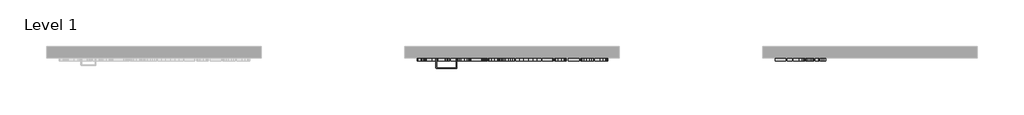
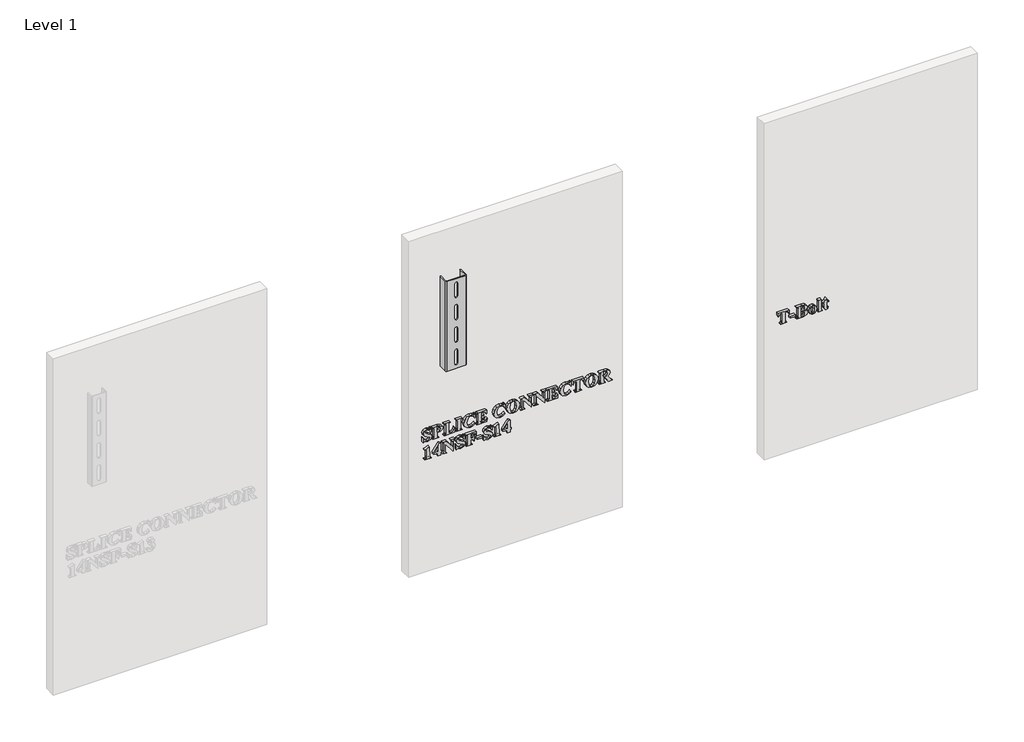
# One storey, part 21 of 21: 4 proxies.
"""IFC4 building model written with IfcOpenShell, lengths in millimetres."""

from ifc_helpers import new_model, si_unit, frame, origin, place, context, project, spatial, polyline, outline, extrude, transform, mapped, element, save
from components import generic_models_3a623070

model = new_model("IFC4")

# Units and contexts
model_context = context("Model", 3, world=origin())
ifc_project = project(units=[si_unit("LENGTHUNIT", "METRE", prefix="MILLI")], contexts=[model_context])

# Site, building, storey
site = spatial("IfcSite", under=ifc_project)
building = spatial("IfcBuilding", under=site)
storey = spatial("IfcBuildingStorey", under=building, Name="Level 1", Elevation=0.0)

# Proxies
placement = place(None, origin())
element("IfcBuildingElementProxy", 1, Name="2\"\" Arial", ObjectType="2\"\" Arial", at=placement, inside=storey, context=model_context, shape_type="SweptSolid", body=[
    extrude(outline(polyline([(653.4647125, 37514.5174669), (653.4647125, 37512.7446218), (650.5284378, 37511.6365936), (649.9190223, 37510.002252), (651.1586288, 37506.2418813), (652.855297, 37501.6920405), (653.4647125, 37496.6089612), (649.1364773, 37484.6768826), (638.6448354, 37479.9469872), (632.0382173, 37481.5813288), (626.6019539, 37486.2627479), (620.6947786, 37497.1075739), (616.6504757, 37504.8637712), (613.3817925, 37508.1255292), (609.8222519, 37509.1989316), (604.3859886, 37506.5327387), (602.0522042, 37499.3651813), (606.366589, 37488.5134302), (618.8942328, 37481.7198323), (618.8942328, 37479.9469872), (599.3929366, 37479.9469872), (599.3929366, 37481.7198323), (602.0660546, 37483.5411537), (602.9386268, 37485.6810331), (602.0799049, 37488.741961), (599.9538758, 37494.2890271), (599.3929366, 37498.9773714), (604.0743557, 37512.0382538), (615.2654405, 37517.1767346), (624.365122, 37514.5590179), (632.813837, 37501.8720951), (637.3013512, 37492.7308625), (640.8608918, 37488.8112128), (643.9218197, 37487.9247902), (648.7209668, 37490.3486019), (650.8054448, 37496.9275193), (646.6711146, 37506.9413241), (635.7362614, 37512.7446218), (635.7362614, 37514.5174669), (653.4647125, 37514.5174669)])), frame((0.0, -15490.3579358, 0.0), z_axis=(0.0, 1.0, 0.0), x_axis=(0.0, 0.0, 1.0)), (0.0, 0.0, 1.0), 12.7),
    extrude(outline(polyline([(624.2127681, 37540.223721), (625.1268914, 37553.4785083), (630.022991, 37562.6128157), (638.6586857, 37565.9299752), (648.6032388, 37560.8815217), (652.5782899, 37544.2264729), (652.5782899, 37520.7224248), (650.8054448, 37520.7224248), (650.2029545, 37525.5077216), (648.5963136, 37527.3013422), (643.7140644, 37527.8138052), (609.1435847, 37527.8138052), (604.2751858, 37527.3013422), (602.6685449, 37525.5284971), (602.0522042, 37520.7224248), (600.2793591, 37520.7224248), (600.2793591, 37547.3151015), (602.0522042, 37547.3151015), (602.6546946, 37542.5436551), (604.2613354, 37540.7361841), (609.1435847, 37540.223721), (624.2127681, 37540.223721)]), holes=[polyline([(649.9190223, 37540.223721), (649.9190223, 37542.0104165), (647.1628021, 37550.6322609), (638.4786311, 37553.5200594), (629.6421063, 37550.6322609), (626.7889337, 37542.4120767), (626.8720358, 37540.223721), (649.9190223, 37540.223721)])]), frame((0.0, -15490.3579358, 0.0), z_axis=(0.0, 1.0, 0.0), x_axis=(0.0, 0.0, 1.0)), (0.0, 0.0, 1.0), 12.7),
    extrude(outline(polyline([(619.7806553, 37617.3424834), (619.7806553, 37615.5696383), (610.1269597, 37611.7746417), (605.3416629, 37607.0239709), (603.8250493, 37600.154196), (603.8250493, 37595.8467364), (604.1713081, 37591.2345691), (605.7848742, 37589.4340233), (610.8333277, 37588.9769616), (643.7140644, 37588.9769616), (648.298531, 37589.3509211), (650.0436754, 37590.7636571), (650.8054448, 37594.0323403), (650.8054448, 37596.0683421), (652.5782899, 37596.0683421), (652.5782899, 37569.4756654), (650.8054448, 37569.4756654), (650.8054448, 37571.151558), (650.0990768, 37574.5033433), (648.4439597, 37576.1584604), (643.7140644, 37576.5670458), (609.1435847, 37576.5670458), (604.559118, 37576.1653856), (602.8139736, 37574.6695475), (602.0522042, 37571.151558), (602.0522042, 37569.4756654), (600.2793591, 37569.4756654), (600.2793591, 37615.5696383), (619.7806553, 37617.3424834)])), frame((0.0, -15490.3579358, 0.0), z_axis=(0.0, 1.0, 0.0), x_axis=(0.0, 0.0, 1.0)), (0.0, 0.0, 1.0), 12.7),
    extrude(outline(polyline([(602.0522042, 37648.3672729), (602.0522042, 37646.7052306), (602.7585722, 37643.3603705), (604.4136893, 37641.6983282), (609.1435847, 37641.2758924), (643.7140644, 37641.2758924), (648.298531, 37641.6775527), (650.0436754, 37643.2010914), (650.8054448, 37646.7052306), (650.8054448, 37648.3672729), (652.5782899, 37648.3672729), (652.5782899, 37621.7745962), (650.8054448, 37621.7745962), (650.8054448, 37623.4504889), (650.0990768, 37626.8022741), (648.4439597, 37628.4573913), (643.7140644, 37628.8659767), (609.1435847, 37628.8659767), (604.559118, 37628.4643164), (602.8139736, 37626.9684784), (602.0522042, 37623.4504889), (602.0522042, 37621.7745962), (600.2793591, 37621.7745962), (600.2793591, 37648.3672729), (602.0522042, 37648.3672729)])), frame((0.0, -15490.3579358, 0.0), z_axis=(0.0, 1.0, 0.0), x_axis=(0.0, 0.0, 1.0)), (0.0, 0.0, 1.0), 12.7),
    extrude(outline(polyline([(653.4647125, 37702.4390488), (653.4647125, 37700.6662037), (650.7708189, 37699.5166245), (649.9190223, 37697.4252212), (651.2209554, 37693.0208092), (653.4647125, 37681.6358195), (649.8012943, 37667.8339433), (639.5035572, 37657.5085055), (625.4731502, 37653.6858082), (612.2460636, 37657.1553215), (602.710096, 37667.0098473), (599.3929366, 37681.6219691), (601.4220132, 37692.5498972), (607.9663047, 37701.5526263), (612.4676693, 37701.5526263), (605.0785062, 37693.1800882), (602.9386268, 37684.4335907), (605.854126, 37674.9599496), (614.4551948, 37669.5860128), (627.0797911, 37667.8685691), (639.8636664, 37670.1954283), (647.1420266, 37675.9294743), (649.9190223, 37684.5443935), (646.2625292, 37694.6066745), (635.7362614, 37700.6662037), (635.7362614, 37702.4390488), (653.4647125, 37702.4390488)])), frame((0.0, -15490.3579358, 0.0), z_axis=(0.0, 1.0, 0.0), x_axis=(0.0, 0.0, 1.0)), (0.0, 0.0, 1.0), 12.7),
    extrude(outline(polyline([(649.0325997, 37729.0317255), (649.0325997, 37733.4638383), (648.3400821, 37741.4970427), (644.7320653, 37747.1895376), (636.6226839, 37750.3058669), (636.6226839, 37752.078712), (652.5782899, 37752.078712), (652.5782899, 37709.5304293), (650.8054448, 37709.5304293), (650.8054448, 37711.2063219), (649.7805187, 37715.0567199), (647.827619, 37716.4417552), (643.7140644, 37716.6218097), (609.1435847, 37716.6218097), (604.559118, 37716.2201495), (602.8139736, 37714.7243115), (602.0522042, 37711.2063219), (602.0522042, 37709.5304293), (600.2793591, 37709.5304293), (600.2793591, 37753.3390941), (616.8859317, 37754.280918), (606.4427659, 37748.1659874), (602.9386268, 37736.8433243), (602.9386268, 37733.8239475), (603.5549675, 37730.7076182), (605.1339076, 37729.3849095), (610.4039667, 37729.0317255), (625.0991907, 37729.0317255), (624.0950401, 37734.0386279), (620.1753904, 37737.0718551), (612.6892749, 37738.7823736), (612.6892749, 37740.5552188), (640.1683741, 37740.5552188), (640.1683741, 37738.7823736), (630.9024884, 37736.2754599), (627.7584584, 37729.0317255), (649.0325997, 37729.0317255)])), frame((0.0, -15490.3579358, 0.0), z_axis=(0.0, 1.0, 0.0), x_axis=(0.0, 0.0, 1.0)), (0.0, 0.0, 1.0), 12.7),
    extrude(outline(polyline([(653.4647125, 37830.9703195), (653.4647125, 37829.1974744), (650.7708189, 37828.0478951), (649.9190223, 37825.9564919), (651.2209554, 37821.5520798), (653.4647125, 37810.1670901), (649.8012943, 37796.3652139), (639.5035572, 37786.0397762), (625.4731502, 37782.2170789), (612.2460636, 37785.6865922), (602.710096, 37795.541118), (599.3929366, 37810.1532398), (601.4220132, 37821.0811679), (607.9663047, 37830.0838969), (612.4676693, 37830.0838969), (605.0785062, 37821.7113589), (602.9386268, 37812.9648613), (605.854126, 37803.4912203), (614.4551948, 37798.1172835), (627.0797911, 37796.3998398), (639.8636664, 37798.726699), (647.1420266, 37804.4607449), (649.9190223, 37813.0756641), (646.2625292, 37823.1379452), (635.7362614, 37829.1974744), (635.7362614, 37830.9703195), (653.4647125, 37830.9703195)])), frame((0.0, -15490.3579358, 0.0), z_axis=(0.0, 1.0, 0.0), x_axis=(0.0, 0.0, 1.0)), (0.0, 0.0, 1.0), 12.7),
    extrude(outline(polyline([(653.4647125, 37866.0809629), (651.8788471, 37855.5391134), (646.1794271, 37846.7943472), (637.4606302, 37840.9096787), (626.8166344, 37838.9481225), (617.1733265, 37840.4543483), (608.9358294, 37844.9730258), (601.7786598, 37854.1904354), (599.3929366, 37866.5795756), (601.8929252, 37878.9375526), (609.392891, 37888.1445744), (626.8581854, 37893.906321), (637.4969874, 37891.9741968), (646.2002026, 37886.1778243), (651.884041, 37877.2893607), (653.4647125, 37866.0809629)]), holes=[polyline([(650.8054448, 37866.5380246), (648.6863409, 37873.1515679), (641.4356814, 37877.8745381), (625.9440622, 37879.7235601), (611.8444034, 37877.9091639), (603.9774032, 37872.8399349), (602.0522042, 37866.4687728), (606.5120177, 37857.6460983), (626.2487699, 37853.1308834), (643.4924587, 37856.0533078), (648.9771983, 37860.4750328), (650.8054448, 37866.5380246)])]), frame((0.0, -15490.3579358, 0.0), z_axis=(0.0, 1.0, 0.0), x_axis=(0.0, 0.0, 1.0)), (0.0, 0.0, 1.0), 12.7),
    extrude(outline(polyline([(652.5782899, 37916.5377969), (652.5782899, 37898.1168281), (650.8054448, 37898.1168281), (650.2029545, 37901.7802464), (647.0519993, 37905.4298142), (609.1435847, 37905.4298142), (603.693471, 37903.8716496), (602.0522042, 37898.3384338), (600.2793591, 37898.3384338), (600.2793591, 37916.0668849), (602.0522042, 37914.9727071), (603.5134164, 37910.7968258), (609.1435847, 37908.9755045), (642.5506348, 37908.9755045), (599.3929366, 37942.7980651), (599.3929366, 37944.4324067), (641.9412193, 37944.4324067), (647.3774826, 37945.0902985), (649.6627907, 37946.9254702), (650.8054448, 37951.5237872), (652.5782899, 37951.5237872), (652.5782899, 37933.795336), (650.8054448, 37933.795336), (648.5616877, 37939.6263344), (641.9412193, 37940.8867165), (621.5119494, 37940.8867165), (652.5782899, 37916.5377969)])), frame((0.0, -15490.3579358, 0.0), z_axis=(0.0, 1.0, 0.0), x_axis=(0.0, 0.0, 1.0)), (0.0, 0.0, 1.0), 12.7),
    extrude(outline(polyline([(652.5782899, 37973.2688405), (652.5782899, 37954.8478718), (650.8054448, 37954.8478718), (650.2029545, 37958.51129), (647.0519993, 37962.1608578), (609.1435847, 37962.1608578), (603.693471, 37960.6026932), (602.0522042, 37955.0694774), (600.2793591, 37955.0694774), (600.2793591, 37972.7979285), (602.0522042, 37971.7037507), (603.5134164, 37967.5278694), (609.1435847, 37965.7065481), (642.5506348, 37965.7065481), (599.3929366, 37999.5291087), (599.3929366, 38001.1634503), (641.9412193, 38001.1634503), (647.3774826, 38001.8213421), (649.6627907, 38003.6565138), (650.8054448, 38008.2548308), (652.5782899, 38008.2548308), (652.5782899, 37990.5263796), (650.8054448, 37990.5263796), (648.5616877, 37996.357378), (641.9412193, 37997.6177601), (621.5119494, 37997.6177601), (652.5782899, 37973.2688405)])), frame((0.0, -15490.3579358, 0.0), z_axis=(0.0, 1.0, 0.0), x_axis=(0.0, 0.0, 1.0)), (0.0, 0.0, 1.0), 12.7),
    extrude(outline(polyline([(649.0325997, 38032.1882398), (649.0325997, 38036.6203526), (648.3400821, 38044.653557), (644.7320653, 38050.3460518), (636.6226839, 38053.4623811), (636.6226839, 38055.2352263), (652.5782899, 38055.2352263), (652.5782899, 38012.6869436), (650.8054448, 38012.6869436), (650.8054448, 38014.3628362), (649.7805187, 38018.2132342), (647.827619, 38019.5982694), (643.7140644, 38019.778324), (609.1435847, 38019.778324), (604.559118, 38019.3766638), (602.8139736, 38017.8808257), (602.0522042, 38014.3628362), (602.0522042, 38012.6869436), (600.2793591, 38012.6869436), (600.2793591, 38056.4956083), (616.8859317, 38057.4374323), (606.4427659, 38051.3225017), (602.9386268, 38039.9998386), (602.9386268, 38036.9804617), (603.5549675, 38033.8641324), (605.1339076, 38032.5414238), (610.4039667, 38032.1882398), (625.0991907, 38032.1882398), (624.0950401, 38037.1951422), (620.1753904, 38040.2283694), (612.6892749, 38041.9388879), (612.6892749, 38043.711733), (640.1683741, 38043.711733), (640.1683741, 38041.9388879), (630.9024884, 38039.4319741), (627.7584584, 38032.1882398), (649.0325997, 38032.1882398)])), frame((0.0, -15490.3579358, 0.0), z_axis=(0.0, 1.0, 0.0), x_axis=(0.0, 0.0, 1.0)), (0.0, 0.0, 1.0), 12.7),
    extrude(outline(polyline([(653.4647125, 38114.6255375), (653.4647125, 38112.8526924), (650.7708189, 38111.7031132), (649.9190223, 38109.6117099), (651.2209554, 38105.2072979), (653.4647125, 38093.8223082), (649.8012943, 38080.020432), (639.5035572, 38069.6949942), (625.4731502, 38065.8722969), (612.2460636, 38069.3418102), (602.710096, 38079.196336), (599.3929366, 38093.8084578), (601.4220132, 38104.7363859), (607.9663047, 38113.739115), (612.4676693, 38113.739115), (605.0785062, 38105.3665769), (602.9386268, 38096.6200794), (605.854126, 38087.1464383), (614.4551948, 38081.7725015), (627.0797911, 38080.0550578), (639.8636664, 38082.381917), (647.1420266, 38088.115963), (649.9190223, 38096.7308822), (646.2625292, 38106.7931632), (635.7362614, 38112.8526924), (635.7362614, 38114.6255375), (653.4647125, 38114.6255375)])), frame((0.0, -15490.3579358, 0.0), z_axis=(0.0, 1.0, 0.0), x_axis=(0.0, 0.0, 1.0)), (0.0, 0.0, 1.0), 12.7),
    extrude(outline(polyline([(652.5782899, 38168.6973135), (652.5782899, 38122.6033405), (637.5091065, 38122.6033405), (637.5091065, 38124.3761857), (646.7195908, 38128.47589), (649.0325997, 38135.8996789), (649.0325997, 38139.4453691), (609.1435847, 38139.4453691), (604.559118, 38139.0437089), (602.8139736, 38137.5201701), (602.0522042, 38134.016031), (602.0522042, 38132.3539887), (600.2793591, 38132.3539887), (600.2793591, 38158.9466654), (602.0522042, 38158.9466654), (602.0522042, 38157.2984734), (602.7585722, 38153.9328378), (604.4136893, 38152.2777207), (609.1435847, 38151.8552849), (649.0325997, 38151.8552849), (649.0325997, 38155.4009751), (648.3123814, 38160.3317006), (644.7874667, 38164.2929014), (637.5091065, 38166.9244684), (637.5091065, 38168.6973135), (652.5782899, 38168.6973135)])), frame((0.0, -15490.3579358, 0.0), z_axis=(0.0, 1.0, 0.0), x_axis=(0.0, 0.0, 1.0)), (0.0, 0.0, 1.0), 12.7),
    extrude(outline(polyline([(653.4647125, 38202.0351118), (651.8788471, 38191.4932623), (646.1794271, 38182.748496), (637.4606302, 38176.8638275), (626.8166344, 38174.9022714), (617.1733265, 38176.4084972), (608.9358294, 38180.9271747), (601.7786598, 38190.1445842), (599.3929366, 38202.5337245), (601.8929252, 38214.8917015), (609.392891, 38224.0987232), (626.8581854, 38229.8604699), (637.4969874, 38227.9283457), (646.2002026, 38222.1319732), (651.884041, 38213.2435095), (653.4647125, 38202.0351118)]), holes=[polyline([(650.8054448, 38202.4921734), (648.6863409, 38209.1057167), (641.4356814, 38213.8286869), (625.9440622, 38215.677709), (611.8444034, 38213.8633128), (603.9774032, 38208.7940838), (602.0522042, 38202.4229217), (606.5120177, 38193.6002472), (626.2487699, 38189.0850323), (643.4924587, 38192.0074566), (648.9771983, 38196.4291816), (650.8054448, 38202.4921734)])]), frame((0.0, -15490.3579358, 0.0), z_axis=(0.0, 1.0, 0.0), x_axis=(0.0, 0.0, 1.0)), (0.0, 0.0, 1.0), 12.7),
    extrude(outline(polyline([(624.2127681, 38253.7938789), (624.2127681, 38257.2287663), (600.2793591, 38274.0153934), (600.2793591, 38290.1372037), (602.0522042, 38290.1372037), (603.3956884, 38286.8685205), (607.7723998, 38283.7244905), (625.4592998, 38271.3145747), (628.9911397, 38278.2674516), (638.395529, 38282.1594007), (646.5326111, 38279.3962554), (651.2902072, 38272.2633239), (652.5782899, 38258.4614477), (652.5782899, 38234.2925826), (650.8054448, 38234.2925826), (650.2029545, 38239.0778794), (648.5963136, 38240.8715001), (643.7140644, 38241.3839631), (609.1435847, 38241.3839631), (604.2751858, 38240.8715001), (602.6685449, 38239.0986549), (602.0522042, 38234.2925826), (600.2793591, 38234.2925826), (600.2793591, 38260.8852593), (602.0522042, 38260.8852593), (602.6546946, 38256.0999626), (604.2613354, 38254.3063419), (609.1435847, 38253.7938789), (624.2127681, 38253.7938789)]), holes=[polyline([(649.9190223, 38253.7938789), (649.9190223, 38257.9212839), (647.0450741, 38266.9517137), (638.160073, 38269.7494849), (631.4288018, 38268.2259461), (627.862336, 38264.0362145), (626.8720358, 38255.9960849), (626.8720358, 38253.7938789), (649.9190223, 38253.7938789)])]), frame((0.0, -15490.3579358, 0.0), z_axis=(0.0, 1.0, 0.0), x_axis=(0.0, 0.0, 1.0)), (0.0, 0.0, 1.0), 12.7),
])
element("IfcBuildingElementProxy", 2, Name="2\"\" Arial", ObjectType="2\"\" Arial", at=placement, inside=storey, context=model_context, shape_type="SweptSolid", body=[
    extrude(outline(polyline([(571.8192305, 37506.9409375), (562.9550049, 37487.1834097), (561.1821598, 37487.8482267), (562.4148412, 37492.4049926), (561.777725, 37494.4825455), (560.2611114, 37495.7152269), (555.8636245, 37496.0476353), (529.2709478, 37496.0476353), (523.2044934, 37495.5282471), (521.1546413, 37493.5407215), (520.4067222, 37487.1834097), (518.6338771, 37487.1834097), (518.6338771, 37515.5489316), (520.4067222, 37514.3162502), (521.223893, 37509.8425863), (523.3291466, 37508.0074146), (529.2709478, 37507.5711285), (571.8192305, 37506.9409375)])), frame((0.0, -15490.3579358, 0.0), z_axis=(0.0, 1.0, 0.0), x_axis=(0.0, 0.0, 1.0)), (0.0, 0.0, 1.0), 12.7),
    extrude(outline(polyline([(538.1351733, 37524.4131571), (530.1573703, 37524.4131571), (530.1573703, 37543.0280308), (518.6338771, 37543.0280308), (518.6338771, 37554.551524), (530.1573703, 37554.551524), (530.1573703, 37558.9836368), (538.1351733, 37558.9836368), (538.1351733, 37554.551524), (571.8192305, 37554.551524), (571.8192305, 37549.440744), (538.1351733, 37524.4131571)]), holes=[polyline([(538.1351733, 37527.1001255), (559.5616686, 37543.0280308), (538.1351733, 37543.0280308), (538.1351733, 37527.1001255)])]), frame((0.0, -15490.3579358, 0.0), z_axis=(0.0, 1.0, 0.0), x_axis=(0.0, 0.0, 1.0)), (0.0, 0.0, 1.0), 12.7),
    extrude(outline(polyline([(570.9328079, 37581.6151127), (570.9328079, 37563.194144), (569.1599628, 37563.194144), (568.5574725, 37566.8575622), (565.4065173, 37570.50713), (527.4981027, 37570.50713), (522.047989, 37568.9489654), (520.4067222, 37563.4157496), (518.6338771, 37563.4157496), (518.6338771, 37581.1442007), (520.4067222, 37580.0500229), (521.8679344, 37575.8741416), (527.4981027, 37574.0528203), (560.9051528, 37574.0528203), (517.7474546, 37607.8753809), (517.7474546, 37609.5097225), (560.2957373, 37609.5097225), (565.7320006, 37610.1676143), (568.0173087, 37612.002786), (569.1599628, 37616.601103), (570.9328079, 37616.601103), (570.9328079, 37598.8726518), (569.1599628, 37598.8726518), (566.9162057, 37604.7036502), (560.2957373, 37605.9640323), (539.8664674, 37605.9640323), (570.9328079, 37581.6151127)])), frame((0.0, -15490.3579358, 0.0), z_axis=(0.0, 1.0, 0.0), x_axis=(0.0, 0.0, 1.0)), (0.0, 0.0, 1.0), 12.7),
    extrude(outline(polyline([(571.8192305, 37657.3765406), (571.8192305, 37655.6036955), (568.8829558, 37654.4956673), (568.2735403, 37652.8613257), (569.5131468, 37649.100955), (571.209815, 37644.5511142), (571.8192305, 37639.4680349), (567.4909954, 37627.5359562), (556.9993534, 37622.8060609), (550.3927353, 37624.4404025), (544.9564719, 37629.1218216), (539.0492966, 37639.9666475), (535.0049937, 37647.7228449), (531.7363105, 37650.9846029), (528.1767699, 37652.0580052), (522.7405066, 37649.3918124), (520.4067222, 37642.224255), (524.721107, 37631.3725039), (537.2487508, 37624.578906), (537.2487508, 37622.8060609), (517.7474546, 37622.8060609), (517.7474546, 37624.578906), (520.4205726, 37626.4002273), (521.2931448, 37628.5401068), (520.4344229, 37631.6010347), (518.3083938, 37637.1481008), (517.7474546, 37641.8364451), (522.4288737, 37654.8973275), (533.6199585, 37660.0358082), (542.71964, 37657.4180916), (551.168355, 37644.7311688), (555.6558692, 37635.5899362), (559.2154098, 37631.6702864), (562.2763377, 37630.7838639), (567.0754848, 37633.2076756), (569.1599628, 37639.786593), (565.0256326, 37649.8003978), (554.0907794, 37655.6036955), (554.0907794, 37657.3765406), (571.8192305, 37657.3765406)])), frame((0.0, -15490.3579358, 0.0), z_axis=(0.0, 1.0, 0.0), x_axis=(0.0, 0.0, 1.0)), (0.0, 0.0, 1.0), 12.7),
    extrude(outline(polyline([(567.3871177, 37683.9692173), (567.3871177, 37688.40133), (566.7915526, 37696.9608478), (563.0796581, 37703.373561), (554.9772019, 37706.1297812), (554.9772019, 37707.9026263), (570.9328079, 37707.9026263), (570.9328079, 37664.467921), (569.1599628, 37664.467921), (569.1599628, 37666.1438137), (568.4535948, 37669.495599), (566.7984777, 37671.1507161), (562.0685824, 37671.5593015), (527.4981027, 37671.5593015), (522.913636, 37671.1576412), (521.1684916, 37669.6618032), (520.4067222, 37666.1438137), (520.4067222, 37664.467921), (518.6338771, 37664.467921), (518.6338771, 37691.0605977), (520.4067222, 37691.0605977), (520.4067222, 37689.3985554), (521.1130902, 37686.0536953), (522.7682073, 37684.391653), (527.4981027, 37683.9692173), (543.4537087, 37683.9692173), (543.4537087, 37685.7420624), (541.0368222, 37692.6533882), (531.0437929, 37696.379133), (531.0437929, 37698.1519782), (559.4093147, 37698.1519782), (559.4093147, 37696.379133), (552.0270768, 37694.5231858), (548.1489782, 37691.0398222), (546.9993989, 37685.7420624), (546.9993989, 37683.9692173), (567.3871177, 37683.9692173)])), frame((0.0, -15490.3579358, 0.0), z_axis=(0.0, 1.0, 0.0), x_axis=(0.0, 0.0, 1.0)), (0.0, 0.0, 1.0), 12.7),
    extrude(outline(polyline([(37733.6088804, -15490.3579358), (37711.4483165, -15490.3579358), (37711.4483165, -15477.6579358), (37733.6088804, -15477.6579358), (37733.6088804, -15490.3579358)])), frame((0.0, 0.0, 532.816638), z_axis=(0.0, 0.0, 1.0), x_axis=(1.0, 0.0, 0.0)), (0.0, 0.0, 1.0), 7.977803),
    extrude(outline(polyline([(571.8192305, 37775.2707406), (571.8192305, 37773.4978954), (568.8829558, 37772.3898673), (568.2735403, 37770.7555257), (569.5131468, 37766.995155), (571.209815, 37762.4453142), (571.8192305, 37757.3622349), (567.4909954, 37745.4301562), (556.9993534, 37740.7002609), (550.3927353, 37742.3346025), (544.9564719, 37747.0160216), (539.0492966, 37757.8608475), (535.0049937, 37765.6170449), (531.7363105, 37768.8788029), (528.1767699, 37769.9522052), (522.7405066, 37767.2860124), (520.4067222, 37760.118455), (524.721107, 37749.2667038), (537.2487508, 37742.473106), (537.2487508, 37740.7002609), (517.7474546, 37740.7002609), (517.7474546, 37742.473106), (520.4205726, 37744.2944273), (521.2931448, 37746.4343068), (520.4344229, 37749.4952347), (518.3083938, 37755.0423008), (517.7474546, 37759.7306451), (522.4288737, 37772.7915275), (533.6199585, 37777.9300082), (542.71964, 37775.3122916), (551.168355, 37762.6253688), (555.6558692, 37753.4841362), (559.2154098, 37749.5644864), (562.2763377, 37748.6780639), (567.0754848, 37751.1018755), (569.1599628, 37757.680793), (565.0256326, 37767.6945978), (554.0907794, 37773.4978954), (554.0907794, 37775.2707406), (571.8192305, 37775.2707406)])), frame((0.0, -15490.3579358, 0.0), z_axis=(0.0, 1.0, 0.0), x_axis=(0.0, 0.0, 1.0)), (0.0, 0.0, 1.0), 12.7),
    extrude(outline(polyline([(571.8192305, 37804.7789164), (562.9550049, 37785.0213887), (561.1821598, 37785.6862056), (562.4148412, 37790.2429716), (561.777725, 37792.3205244), (560.2611114, 37793.5532058), (555.8636245, 37793.8856142), (529.2709478, 37793.8856142), (523.2044934, 37793.366226), (521.1546413, 37791.3787005), (520.4067222, 37785.0213887), (518.6338771, 37785.0213887), (518.6338771, 37813.3869105), (520.4067222, 37812.1542291), (521.223893, 37807.6805653), (523.3291466, 37805.8453936), (529.2709478, 37805.4091075), (571.8192305, 37804.7789164)])), frame((0.0, -15490.3579358, 0.0), z_axis=(0.0, 1.0, 0.0), x_axis=(0.0, 0.0, 1.0)), (0.0, 0.0, 1.0), 12.7),
    extrude(outline(polyline([(538.1351733, 37822.251136), (530.1573703, 37822.251136), (530.1573703, 37840.8660097), (518.6338771, 37840.8660097), (518.6338771, 37852.389503), (530.1573703, 37852.389503), (530.1573703, 37856.8216157), (538.1351733, 37856.8216157), (538.1351733, 37852.389503), (571.8192305, 37852.389503), (571.8192305, 37847.2787229), (538.1351733, 37822.251136)]), holes=[polyline([(538.1351733, 37824.9381044), (559.5616686, 37840.8660097), (538.1351733, 37840.8660097), (538.1351733, 37824.9381044)])]), frame((0.0, -15490.3579358, 0.0), z_axis=(0.0, 1.0, 0.0), x_axis=(0.0, 0.0, 1.0)), (0.0, 0.0, 1.0), 12.7),
])
element("IfcBuildingElementProxy", 3, Name="2\"\" Arial", ObjectType="2\"\" Arial", at=placement, inside=storey, context=model_context, shape_type="SweptSolid", body=[
    extrude(outline(polyline([(652.5782899, 39049.1545376), (652.5782899, 39003.0605646), (637.5091065, 39003.0605646), (637.5091065, 39004.8334097), (646.7195908, 39008.9331141), (649.0325997, 39016.356903), (649.0325997, 39019.9025932), (609.1435847, 39019.9025932), (604.559118, 39019.500933), (602.8139736, 39017.9773942), (602.0522042, 39014.473255), (602.0522042, 39012.8112128), (600.2793591, 39012.8112128), (600.2793591, 39039.4038894), (602.0522042, 39039.4038894), (602.0522042, 39037.7556975), (602.7585722, 39034.3900619), (604.4136893, 39032.7349447), (609.1435847, 39032.312509), (649.0325997, 39032.312509), (649.0325997, 39035.8581992), (648.3123814, 39040.7889247), (644.7874667, 39044.7501255), (637.5091065, 39047.3816925), (637.5091065, 39049.1545376), (652.5782899, 39049.1545376)])), frame((0.0, -15490.3579358, 0.0), z_axis=(0.0, 1.0, 0.0), x_axis=(0.0, 0.0, 1.0)), (0.0, 0.0, 1.0), 12.7),
    extrude(outline(polyline([(39075.7472143, -15490.3579358), (39053.5866503, -15490.3579358), (39053.5866503, -15477.6579358), (39075.7472143, -15477.6579358), (39075.7472143, -15490.3579358)])), frame((0.0, 0.0, 614.46212), z_axis=(0.0, 0.0, 1.0), x_axis=(1.0, 0.0, 0.0)), (0.0, 0.0, 1.0), 7.977803),
    extrude(outline(polyline([(627.7307576, 39114.7498067), (632.4745034, 39124.4173527), (639.2819516, 39127.1597225), (646.1240257, 39124.9921424), (650.9577987, 39119.0641915), (652.5782899, 39106.2595407), (652.5782899, 39081.0657496), (650.8054448, 39081.0657496), (650.2029545, 39085.8510464), (648.5963136, 39087.644667), (643.7140644, 39088.15713), (609.1435847, 39088.15713), (604.2751858, 39087.644667), (602.6685449, 39085.8718219), (602.0522042, 39081.0657496), (600.2793591, 39081.0657496), (600.2793591, 39107.4229703), (604.9053768, 39124.2234478), (614.5590725, 39128.9325676), (623.5756519, 39124.7913123), (627.7307576, 39114.7498067)]), holes=[polyline([(625.9856132, 39100.5670458), (624.877585, 39109.9160337), (620.7917311, 39113.8980101), (614.1712626, 39114.7498067), (608.3194887, 39113.461724), (604.3167368, 39109.7567547), (602.9386268, 39104.4728452), (604.0051039, 39101.5504209), (607.1629843, 39100.5670458), (609.1020336, 39100.5670458), (625.9856132, 39100.5670458)]), polyline([(628.6448809, 39100.5670458), (649.9190223, 39100.5670458), (648.7625178, 39109.1819651), (645.272229, 39113.3093701), (639.4066048, 39114.7498067), (633.5063546, 39113.2885946), (629.9191133, 39109.0850126), (628.6448809, 39100.5670458)])]), frame((0.0, -15490.3579358, 0.0), z_axis=(0.0, 1.0, 0.0), x_axis=(0.0, 0.0, 1.0)), (0.0, 0.0, 1.0), 12.7),
    extrude(outline(polyline([(636.6226839, 39150.5529678), (635.2186044, 39143.4009921), (631.006366, 39137.9560723), (617.841606, 39133.3646804), (604.9538531, 39137.8591198), (600.7831657, 39143.3075022), (599.3929366, 39150.6637706), (600.9130127, 39158.2260631), (605.4732413, 39163.960109), (617.9939599, 39167.9351601), (627.5299275, 39165.7883555), (634.2542736, 39159.5002955), (636.6226839, 39150.5529678)]), holes=[polyline([(633.9634162, 39150.7468727), (633.1739462, 39153.863202), (629.711358, 39156.4255172), (620.9579353, 39157.2980894), (606.5535688, 39156.3839662), (602.9940282, 39154.0017056), (602.0522042, 39150.5529678), (603.4372395, 39146.7995223), (607.4953927, 39144.6388673), (614.9884334, 39144.0017511), (626.8235596, 39144.5280645), (632.5229796, 39146.7302705), (633.9634162, 39150.7468727)])]), frame((0.0, -15490.3579358, 0.0), z_axis=(0.0, 1.0, 0.0), x_axis=(0.0, 0.0, 1.0)), (0.0, 0.0, 1.0), 12.7),
    extrude(outline(polyline([(652.5782899, 39187.4364564), (652.5782899, 39173.2536955), (650.8054448, 39173.2536955), (649.5658383, 39176.0722422), (644.6004869, 39176.7993857), (608.2571621, 39176.7993857), (603.4649402, 39176.1622695), (602.0522042, 39173.2536955), (600.2793591, 39173.2536955), (600.2793591, 39190.9821466), (602.0522042, 39190.9821466), (603.2848856, 39188.1566747), (608.2571621, 39187.4364564), (652.5782899, 39187.4364564)])), frame((0.0, -15490.3579358, 0.0), z_axis=(0.0, 1.0, 0.0), x_axis=(0.0, 0.0, 1.0)), (0.0, 0.0, 1.0), 12.7),
    extrude(outline(polyline([(649.0325997, 39209.8671021), (640.6669868, 39203.454389), (632.1905711, 39195.4142594), (632.1905711, 39199.8463721), (612.6754245, 39199.8463721), (605.5701937, 39200.2203317), (601.3042852, 39203.1289057), (599.3929366, 39208.7105977), (601.3804621, 39214.5208206), (608.2571621, 39217.3116666), (605.2516356, 39211.6953487), (606.6712968, 39210.7535247), (610.5840213, 39210.4834428), (632.1905711, 39210.4834428), (632.1905711, 39218.4612458), (635.7362614, 39218.4612458), (635.7362614, 39210.4834428), (649.0325997, 39209.8671021)])), frame((0.0, -15490.3579358, 0.0), z_axis=(0.0, 1.0, 0.0), x_axis=(0.0, 0.0, 1.0)), (0.0, 0.0, 1.0), 12.7),
])
generic_models_shape = generic_models_3a623070(model_context)
element("IfcBuildingElementProxy", 4, Name="14NSF-S14 : 14NSF-S14_Latest", ObjectType="14NSF-S14 : 14NSF-S14_Latest", at=placement, inside=storey, context=model_context, shape_type="MappedRepresentation", body=[
    mapped(generic_models_shape, transform((37603.5187481, -15522.1079358, 914.4), x_axis=(1.0, 0.0, 0.0), y_axis=(0.0, 1.0, 0.0), z_axis=(0.0, 0.0, 1.0))),
])

save(model, "model.ifc")
